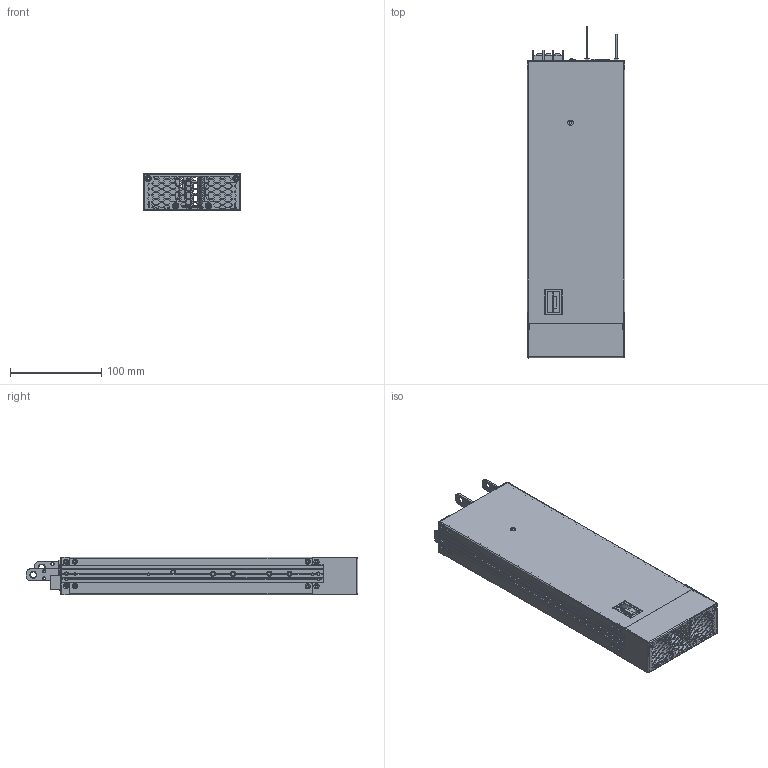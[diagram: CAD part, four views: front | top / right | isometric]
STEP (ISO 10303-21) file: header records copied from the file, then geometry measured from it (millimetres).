
FILE_DESCRIPTION((''),'2;1');
FILE_NAME('DBU-3200_ASM-1_ASM','2023-04-17T',('Vincent.Kao'),(''),'CREO PARAMETRIC BY PTC INC, 2016260','CREO PARAMETRIC BY PTC INC, 2016260','');
FILE_SCHEMA(('AUTOMOTIVE_DESIGN { 1 0 10303 214 1 1 1 1 }'));
Products named in the file (32): SKIN_GROUP1; SKIN_GROUP2; SKIN_GROUP3; SKIN_GROUP4; SKIN_GROUP5; SKIN_GROUP6; SKIN_GROUP7; SKIN_GROUP8; SKIN_GROUP9; SKIN_GROUP10; SKIN_GROUP11; SKIN_GROUP12; SKIN_GROUP13; SKIN_GROUP14; SKIN_GROUP15; SKIN_GROUP16; SKIN_GROUP31; SKIN_GROUP18; SKIN_GROUP19; SKIN_GROUP20; SKIN_GROUP32; SKIN_GROUP22; SKIN_GROUP23; SKIN_GROUP24; SKIN_GROUP25; SKIN_GROUP26; SKIN_GROUP27; SKIN_GROUP28; SKIN_GROUP29; SKIN_GROUP30; ASSEMBLY1_ASM; DBU-3200_ASM-1_ASM
Assembly tree (31 placements, depth 3):
  DBU-3200_ASM-1_ASM
    ASSEMBLY1_ASM
      SKIN_GROUP1
      SKIN_GROUP2
      SKIN_GROUP3
      SKIN_GROUP4
      SKIN_GROUP5
      SKIN_GROUP6
      SKIN_GROUP7
      SKIN_GROUP8
      SKIN_GROUP9
      SKIN_GROUP10
      SKIN_GROUP11
      SKIN_GROUP12
      SKIN_GROUP13
      SKIN_GROUP14
      SKIN_GROUP15
      SKIN_GROUP16
      SKIN_GROUP31
      SKIN_GROUP18
      SKIN_GROUP19
      SKIN_GROUP20
      SKIN_GROUP32
      SKIN_GROUP22
      SKIN_GROUP23
      SKIN_GROUP24
      SKIN_GROUP25
      SKIN_GROUP26
      SKIN_GROUP27
      SKIN_GROUP28
      SKIN_GROUP29
      SKIN_GROUP30
Bounding box: 106.9 x 363.8 x 40.8 mm (x, y, z)
Volume: 283391.4 mm3; surface area: 341776.5 mm2
Topology: 28 solids, 30 shells, 1907 faces, 5256 edges, 3391 vertices
Faces by surface type: plane 1191, cylinder 510, cone 145, sphere 32, torus 16, bspline 8, extrusion 5
Entity records: 76785 total; most frequent: CARTESIAN_POINT 12117, ORIENTED_EDGE 10430, DIRECTION 10150, EDGE_CURVE 5224, VECTOR 3790, LINE 3785, VERTEX_POINT 3391, AXIS2_PLACEMENT_3D 3180
